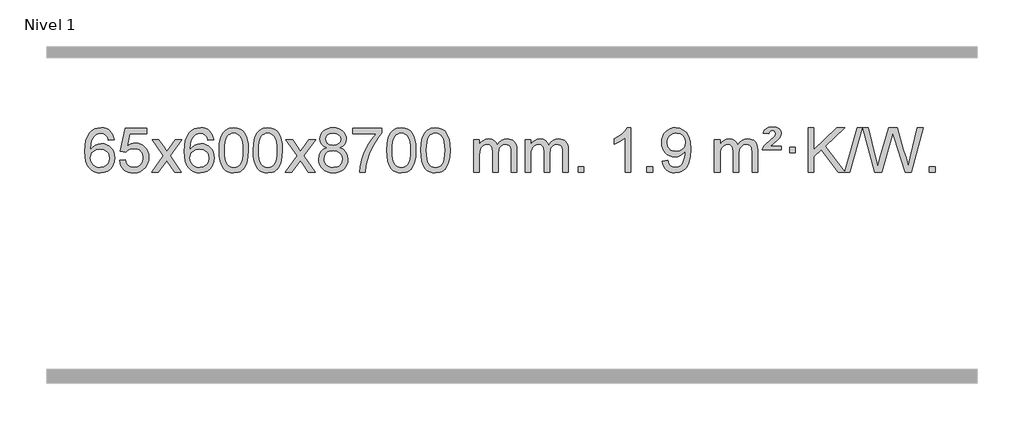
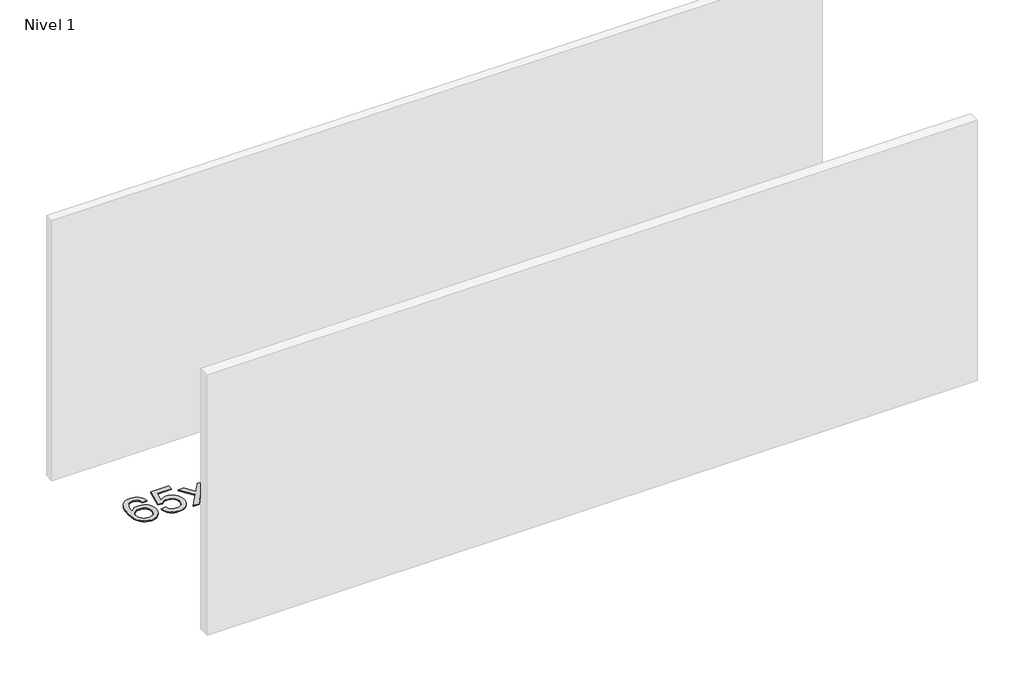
# One storey, part 7 of 10: 1 proxy.
"""IFC4 building model written with IfcOpenShell, lengths in millimetres."""

import ifcopenshell
import ifcopenshell.guid

model = None  # the IFC model being written
_history = None  # IfcOwnerHistory: only IFC2X3 demands one
_inside = {}  # id of a spatial element -> (the spatial element, [elements in it])
_under = {}  # id of a project, library or spatial element -> (it, [spatial elements below it])
_declared = {}  # id of a project -> (the project, [libraries it declares])
_typed = {}  # id of a type object -> (the type object, [elements of that type])
_made_of = {}  # id of a material, layer set ... -> (it, [elements and type objects made of it])


def new_model(schema):
    """Start an empty IFC model of exactly this schema.

    Asked for "IFC4X3", IfcOpenShell would pick the latest addendum, in which some entities
    have other attributes; the version numbers below select the first issue.
    IFC2X3 requires an IfcOwnerHistory on every rooted entity: one is made here for all.
    """
    global model, _history
    if schema == "IFC4X3":
        model = ifcopenshell.file(schema_version=(4, 3, 0, 0))
    else:
        model = ifcopenshell.file(schema=schema)
    _inside.clear()
    _under.clear()
    _declared.clear()
    _typed.clear()
    _made_of.clear()
    _history = None
    if model.schema == "IFC2X3":
        org = make("IfcOrganization", Name="unknown")
        user = make(
            "IfcPersonAndOrganization",
            ThePerson=make("IfcPerson", FamilyName="unknown"),
            TheOrganization=org,
        )
        app = make(
            "IfcApplication",
            ApplicationDeveloper=org,
            Version="unknown",
            ApplicationFullName="unknown",
            ApplicationIdentifier="unknown",
        )
        _history = make(
            "IfcOwnerHistory",
            OwningUser=user,
            OwningApplication=app,
            ChangeAction="ADDED",
            CreationDate=0,
        )
    return model


def make(cls, **values):
    """One entity of the class cls with the attributes given. An attribute that is None is left unset."""
    return model.create_entity(
        cls, **{name: value for name, value in values.items() if value is not None}
    )


def rooted(cls, **values):
    """An entity with a GlobalId (a new one), such as an element, a storey or a relation."""
    return make(cls, GlobalId=ifcopenshell.guid.new(), OwnerHistory=_history, **values)


def si_unit(unit_type, name, prefix=None):
    """IfcSIUnit, for example si_unit("LENGTHUNIT", "METRE", prefix="MILLI")."""
    return make("IfcSIUnit", UnitType=unit_type, Prefix=prefix, Name=name)


def assignment(units):
    """IfcUnitAssignment: the units of a project."""
    return None if units is None else make("IfcUnitAssignment", Units=units)


def point(xyz):
    """IfcCartesianPoint."""
    return None if xyz is None else make("IfcCartesianPoint", Coordinates=xyz)


def direction(xyz):
    """IfcDirection."""
    return None if xyz is None else make("IfcDirection", DirectionRatios=xyz)


def frame(location, z_axis=None, x_axis=None):
    """IfcAxis2Placement3D, a coordinate frame: its origin and axes. An axis left out is left unset."""
    return make(
        "IfcAxis2Placement3D",
        Location=point(location),
        Axis=direction(z_axis),
        RefDirection=direction(x_axis),
    )


def origin():
    """The frame at (0, 0, 0) with its axes left unset."""
    return frame((0.0, 0.0, 0.0))


def origin_with_axes():
    """The frame at (0, 0, 0) with the z axis (0, 0, 1) and the x axis (1, 0, 0) written out."""
    return frame((0.0, 0.0, 0.0), z_axis=(0.0, 0.0, 1.0), x_axis=(1.0, 0.0, 0.0))


def place(relative_to, where):
    """IfcLocalPlacement: puts the frame where relative to a parent placement (None: the world)."""
    return make(
        "IfcLocalPlacement", PlacementRelTo=relative_to, RelativePlacement=where
    )


def context(
    kind, dimensions, precision=None, world=None, true_north=None, identifier=None
):
    """IfcGeometricRepresentationContext, for example the 3D "Model" context."""
    return make(
        "IfcGeometricRepresentationContext",
        ContextIdentifier=identifier,
        ContextType=kind,
        CoordinateSpaceDimension=dimensions,
        Precision=precision,
        WorldCoordinateSystem=world,
        TrueNorth=true_north,
    )


def project(units=None, contexts=None):
    """IfcProject with its units and contexts."""
    return rooted(
        "IfcProject",
        Name="project",
        RepresentationContexts=contexts,
        UnitsInContext=assignment(units),
    )


def spatial(cls, under=None, at=None, **own):
    """A site, building, storey or space (cls), placed at a placement, below another one or the project."""
    s = rooted(cls, ObjectPlacement=at, **own)
    if under is not None:
        _under.setdefault(under.id(), (under, []))[1].append(s)
    return s


def polyline(points):
    """IfcPolyline through the points."""
    return make("IfcPolyline", Points=[point(p) for p in points])


def outline(outer, holes=None, kind="AREA"):
    """IfcArbitraryClosedProfileDef: a profile drawn as a closed curve; with holes, ...WithVoids."""
    if holes is None:
        return make("IfcArbitraryClosedProfileDef", ProfileType=kind, OuterCurve=outer)
    return make(
        "IfcArbitraryProfileDefWithVoids",
        ProfileType=kind,
        OuterCurve=outer,
        InnerCurves=holes,
    )


def extrude(swept, where, along, depth):
    """IfcExtrudedAreaSolid: the profile swept, set in the frame where, extruded along a direction by depth."""
    return make(
        "IfcExtrudedAreaSolid",
        SweptArea=swept,
        Position=where,
        ExtrudedDirection=direction(along),
        Depth=depth,
    )


def shape(context_of_items, identifier, shape_type, items):
    """IfcShapeRepresentation: the items that make up one representation, for example the "Body"."""
    return make(
        "IfcShapeRepresentation",
        ContextOfItems=context_of_items,
        RepresentationIdentifier=identifier,
        RepresentationType=shape_type,
        Items=items,
    )


def made_of(thing, what):
    """Note that an element or type object is made of a material, layer set ...; save() writes the relation."""
    if what is not None:
        _made_of.setdefault(what.id(), (what, []))[1].append(thing)
    return thing


def element(
    cls,
    number,
    at=None,
    inside=None,
    cuts=None,
    type_object=None,
    material=None,
    context=None,
    identifier="Body",
    shape_type=None,
    held_by="IfcProductDefinitionShape",
    body=None,
    shapes=None,
    **own,
):
    """One element of the class cls, such as IfcWall. Its Tag is "e" and its number.

    at: its placement. inside: the storey or other place that contains it. cuts: it is an
    opening in that element (IfcRelVoidsElement). A single representation is given by context,
    identifier, shape_type and body (its items); several are given by shapes. held_by: the class
    of the entity that holds the representations. save() writes the other relations.
    """
    e = rooted(cls, Tag="e%d" % number, ObjectPlacement=at, **own)
    if body is not None:
        shapes = [shape(context, identifier, shape_type, body)]
    if shapes is not None:
        e.Representation = make(held_by, Representations=shapes)
    if inside is not None:
        _inside.setdefault(inside.id(), (inside, []))[1].append(e)
    if cuts is not None:
        rooted(
            "IfcRelVoidsElement", RelatingBuildingElement=cuts, RelatedOpeningElement=e
        )
    if type_object is not None:
        _typed.setdefault(type_object.id(), (type_object, []))[1].append(e)
    return made_of(e, material)


def aggregate(whole, parts):
    """IfcRelAggregates: a whole, such as a stair, and the parts it consists of."""
    return rooted("IfcRelAggregates", RelatingObject=whole, RelatedObjects=parts)


def save(model, path):
    """Write the relations noted so far, then the file.

    IfcRelAggregates (storeys below a building ...), IfcRelContainedInSpatialStructure (elements
    in a storey), IfcRelDefinesByType, IfcRelAssociatesMaterial and IfcRelDeclares: one each for
    every whole, place, type object, material and project.
    """
    for whole, parts in _under.values():
        aggregate(whole, parts)
    for where, things in _inside.values():
        rooted(
            "IfcRelContainedInSpatialStructure",
            RelatedElements=things,
            RelatingStructure=where,
        )
    for kind, things in _typed.values():
        rooted("IfcRelDefinesByType", RelatedObjects=things, RelatingType=kind)
    for what, things in _made_of.values():
        rooted("IfcRelAssociatesMaterial", RelatedObjects=things, RelatingMaterial=what)
    for by, libraries in _declared.values():
        rooted("IfcRelDeclares", RelatingContext=by, RelatedDefinitions=libraries)
    model.write(path)


model = new_model("IFC4")

# Units and contexts
model_context = context("Model", 3, world=origin())
ifc_project = project(units=[si_unit("LENGTHUNIT", "METRE", prefix="MILLI")], contexts=[model_context])

# Site, building, storey
site = spatial("IfcSite", under=ifc_project)
building = spatial("IfcBuilding", under=site)
storey = spatial("IfcBuildingStorey", under=building, Name="Nivel 1", Elevation=0.0)

# Proxy
placement = place(None, origin())
element("IfcBuildingElementProxy", 1, Name="Texto de modelo 1", ObjectType="Texto de modelo 1", at=placement, inside=storey, context=model_context, shape_type="SweptSolid", body=[
    extrude(outline(polyline([(-13868.7310862, 6007.5109581), (-13918.9592412, 6001.2324387), (-13927.0526451, 6026.125787), (-13937.9910031, 6043.1219352), (-13960.7751614, 6058.7937082), (-13988.3172601, 6064.0176325), (-14011.665504, 6060.9764747), (-14033.6403219, 6051.8530012), (-14052.5126682, 6032.6372983), (-14067.9269238, 6006.1865829), (-14078.3379843, 5968.772984), (-14082.2007452, 5916.6686307), (-14062.0530746, 5940.1762902), (-14037.907753, 5956.7432427), (-14011.113681, 5966.565692), (-13983.0197593, 5969.8398418), (-13958.8867005, 5967.601893), (-13936.617577, 5960.8880466), (-13916.212389, 5949.6983025), (-13897.6711365, 5934.0326609), (-13882.2630122, 5914.8230894), (-13871.2572092, 5893.0015557), (-13864.6537274, 5868.5680599), (-13862.4525668, 5841.5226018), (-13866.5973706, 5805.5560055), (-13879.031782, 5772.213634), (-13898.7257315, 5743.9357713), (-13924.6491494, 5723.1627013), (-13955.6248134, 5710.397196), (-13990.4755011, 5706.1420276), (-14020.4180298, 5708.9624563), (-14047.4604222, 5717.4237421), (-14071.6026781, 5731.5258853), (-14092.8447976, 5751.2688857), (-14110.1628426, 5777.4866092), (-14122.5328746, 5811.0129217), (-14129.9548939, 5851.8478232), (-14132.4289003, 5899.9913136), (-14129.6820481, 5953.9657337), (-14121.4414914, 6000.0306908), (-14107.7072302, 6038.1861851), (-14088.4792646, 6068.4322165), (-14067.6387496, 6088.4756538), (-14043.4750339, 6102.7923948), (-14015.9881175, 6111.3824394), (-13985.1780004, 6114.2457876), (-13962.0443542, 6112.4738227), (-13941.1057374, 6107.1579278), (-13922.3621497, 6098.2981031), (-13905.8135913, 6085.8943485), (-13891.9076519, 6070.3635969), (-13881.0919212, 6052.1227814), (-13873.3663993, 6031.1719017), (-13868.7310862, 6007.5109581)]), holes=[polyline([(-14082.2007452, 5842.3074168), (-14079.2944775, 5820.0505561), (-14070.5756742, 5798.7992395), (-14057.0376168, 5780.527767), (-14039.6735866, 5767.2104388), (-14018.7165756, 5759.0802467), (-13994.3995757, 5756.3701827), (-13961.253408, 5761.9865145), (-13947.3382715, 5769.0069292), (-13935.1951, 5778.8355099), (-13925.3450595, 5791.0737176), (-13918.3093164, 5805.3230135), (-13912.6807219, 5839.8548701), (-13918.23574, 5873.0010379), (-13925.1795126, 5886.6218688), (-13934.9007944, 5898.274531), (-13947.0807541, 5907.6095366), (-13961.4005608, 5914.2773978), (-13996.4597149, 5919.6116867), (-14029.5568317, 5914.2773978), (-14057.2338205, 5898.274531), (-14068.1568501, 5886.7751529), (-14075.9590141, 5873.6141746), (-14080.6403124, 5858.7915958), (-14082.2007452, 5842.3074168)])]), origin_with_axes(), (0.0, 0.0, 1.0), 10.0),
    extrude(outline(polyline([(-13818.5029311, 5819.1553765), (-13768.274776, 5825.4338959), (-13759.0532007, 5795.2798351), (-13742.9644948, 5773.6851619), (-13720.0822347, 5760.6989275), (-13690.4799968, 5756.3701827), (-13671.350133, 5757.8754332), (-13654.4766122, 5762.3911847), (-13639.8594342, 5769.9174372), (-13627.4985992, 5780.4541906), (-13617.6700186, 5793.480279), (-13610.6496038, 5808.4745359), (-13605.033272, 5844.3675559), (-13610.2939846, 5878.1636486), (-13616.8698752, 5892.0818507), (-13626.0761222, 5904.0134901), (-13637.9433822, 5913.5845533), (-13652.5023121, 5920.4210271), (-13689.6951819, 5925.8902061), (-13714.0612327, 5923.7074396), (-13733.7919703, 5917.1591401), (-13749.5495825, 5907.1282243), (-13761.9962566, 5894.4976092), (-13812.2244117, 5900.7761285), (-13768.274776, 6107.9672682), (-13573.6406751, 6107.9672682), (-13573.6406751, 6057.7391131), (-13727.6606038, 6057.7391131), (-13749.1449123, 5947.080209), (-13731.4191315, 5959.7844006), (-13713.264155, 5968.8588231), (-13694.6799829, 5974.3034766), (-13675.6666151, 5976.1183612), (-13651.2055281, 5973.8681496), (-13628.7371353, 5967.117515), (-13608.2614365, 5955.8664573), (-13589.778432, 5940.1149766), (-13574.4776066, 5920.8256973), (-13563.5484457, 5898.961244), (-13556.9909491, 5874.5216168), (-13554.805117, 5847.5068156), (-13556.7732856, 5821.4852958), (-13562.6777917, 5797.2786606), (-13572.518635, 5774.8869098), (-13586.2958157, 5754.3100435), (-13607.1669876, 5733.2365366), (-13631.5207757, 5718.1840316), (-13659.35718, 5709.1525286), (-13690.6762005, 5706.1420276), (-13716.5965528, 5708.0764738), (-13740.0091761, 5713.8798123), (-13760.9140704, 5723.552043), (-13779.3112359, 5737.0931662), (-13794.6181926, 5753.8287312), (-13806.2524607, 5773.084288), (-13814.2140402, 5794.8598364), (-13818.5029311, 5819.1553765)])), origin_with_axes(), (0.0, 0.0, 1.0), 10.0),
    extrude(outline(polyline([(-13529.6910394, 5712.420547), (-13422.3675987, 5860.7505675), (-13523.41252, 6007.5109581), (-13462.981771, 6007.5109581), (-13414.2251439, 5936.877615), (-13391.4655111, 5903.5229808), (-13371.7470362, 5930.7952993), (-13316.2213804, 6007.5109581), (-13255.7906313, 6007.5109581), (-13361.9368496, 5860.7505675), (-13259.7147059, 5712.420547), (-13320.145455, 5712.420547), (-13381.6553246, 5801.5951426), (-13392.9370391, 5817.8800523), (-13469.2602903, 5712.420547), (-13529.6910394, 5712.420547)])), origin_with_axes(), (0.0, 0.0, 1.0), 10.0),
    extrude(outline(polyline([(-12970.9028142, 6007.5109581), (-13021.1309693, 6001.2324387), (-13029.2243732, 6026.125787), (-13040.1627312, 6043.1219352), (-13062.9468894, 6058.7937082), (-13090.4889881, 6064.0176325), (-13113.8372321, 6060.9764747), (-13135.8120499, 6051.8530012), (-13154.6843963, 6032.6372983), (-13170.0986519, 6006.1865829), (-13180.5097123, 5968.772984), (-13184.3724733, 5916.6686307), (-13164.2248027, 5940.1762902), (-13140.0794811, 5956.7432427), (-13113.2854091, 5966.565692), (-13085.1914874, 5969.8398418), (-13061.0584285, 5967.601893), (-13038.7893051, 5960.8880466), (-13018.3841171, 5949.6983025), (-12999.8428645, 5934.0326609), (-12984.4347403, 5914.8230894), (-12973.4289372, 5893.0015557), (-12966.8254554, 5868.5680599), (-12964.6242948, 5841.5226018), (-12968.7690986, 5805.5560055), (-12981.2035101, 5772.213634), (-13000.8974596, 5743.9357713), (-13026.8208775, 5723.1627013), (-13057.7965415, 5710.397196), (-13092.6472291, 5706.1420276), (-13122.5897579, 5708.9624563), (-13149.6321502, 5717.4237421), (-13173.7744061, 5731.5258853), (-13195.0165257, 5751.2688857), (-13212.3345706, 5777.4866092), (-13224.7046027, 5811.0129217), (-13232.1266219, 5851.8478232), (-13234.6006284, 5899.9913136), (-13231.8537761, 5953.9657337), (-13223.6132194, 6000.0306908), (-13209.8789583, 6038.1861851), (-13190.6509927, 6068.4322165), (-13169.8104776, 6088.4756538), (-13145.6467619, 6102.7923948), (-13118.1598455, 6111.3824394), (-13087.3497284, 6114.2457876), (-13064.2160823, 6112.4738227), (-13043.2774654, 6107.1579278), (-13024.5338777, 6098.2981031), (-13007.9853193, 6085.8943485), (-12994.0793799, 6070.3635969), (-12983.2636492, 6052.1227814), (-12975.5381274, 6031.1719017), (-12970.9028142, 6007.5109581)]), holes=[polyline([(-13184.3724733, 5842.3074168), (-13181.4662055, 5820.0505561), (-13172.7474022, 5798.7992395), (-13159.2093448, 5780.527767), (-13141.8453146, 5767.2104388), (-13120.8883036, 5759.0802467), (-13096.5713038, 5756.3701827), (-13063.425136, 5761.9865145), (-13049.5099995, 5769.0069292), (-13037.366828, 5778.8355099), (-13027.5167876, 5791.0737176), (-13020.4810444, 5805.3230135), (-13014.8524499, 5839.8548701), (-13020.407468, 5873.0010379), (-13027.3512407, 5886.6218688), (-13037.0725224, 5898.274531), (-13049.2524821, 5907.6095366), (-13063.5722888, 5914.2773978), (-13098.6314429, 5919.6116867), (-13131.7285598, 5914.2773978), (-13159.4055485, 5898.274531), (-13170.3285781, 5886.7751529), (-13178.1307421, 5873.6141746), (-13182.8120405, 5858.7915958), (-13184.3724733, 5842.3074168)])]), origin_with_axes(), (0.0, 0.0, 1.0), 10.0),
    extrude(outline(polyline([(-12920.6746591, 5910.0958057), (-12916.9835765, 5974.4138412), (-12905.9103284, 6025.7088541), (-12887.5652796, 6064.7656593), (-12875.7072166, 6079.9990395), (-12862.0587946, 6092.3690716), (-12846.5740283, 6101.9401349), (-12829.2069324, 6108.7766086), (-12788.8257521, 6114.2457876), (-12757.8746135, 6111.008426), (-12730.1608366, 6101.2963414), (-12706.9842709, 6085.4896783), (-12689.6447662, 6063.9685816), (-12676.5481671, 6036.9169922), (-12666.1003185, 6004.5188512), (-12659.2577134, 5963.3773814), (-12656.976845, 5910.0958057), (-12660.6311395, 5846.1456523), (-12671.5940229, 5794.9732667), (-12689.8287072, 5755.8796734), (-12701.659179, 5740.6003078), (-12715.298404, 5728.1658964), (-12730.8015644, 5718.5304538), (-12748.2238425, 5711.6479948), (-12788.8257521, 5706.1420276), (-12816.4904781, 5708.5332606), (-12841.0159444, 5715.7069595), (-12862.4021511, 5727.6631243), (-12880.6490981, 5744.4017551), (-12898.160281, 5774.6600492), (-12910.6682689, 5812.3618224), (-12918.1730616, 5857.5070745), (-12920.6746591, 5910.0958057)]), holes=[polyline([(-12870.4465041, 5910.1939076), (-12868.9749761, 5866.5293805), (-12864.5603921, 5831.1851178), (-12857.2027522, 5804.1611196), (-12846.9020564, 5785.4573858), (-12834.4431195, 5772.7317344), (-12820.6107564, 5763.6419835), (-12805.4049673, 5758.1881329), (-12788.8257521, 5756.3701827), (-12772.2465368, 5758.1942643), (-12757.0407477, 5763.6665089), (-12743.2083847, 5772.7869167), (-12730.7494478, 5785.5554876), (-12720.4487519, 5804.2898783), (-12713.091112, 5831.3077451), (-12708.676528, 5866.6090882), (-12707.2050001, 5910.1939076), (-12708.6274771, 5952.7026722), (-12712.8949083, 5987.4246011), (-12720.0072935, 6014.3596945), (-12729.9646328, 6033.5079524), (-12742.2151033, 6046.8559375), (-12756.2068818, 6056.3902125), (-12771.9399685, 6062.1107775), (-12789.4143633, 6064.0176325), (-12805.9077394, 6062.3376381), (-12820.8560111, 6057.2976548), (-12834.2591785, 6048.8976825), (-12846.1172414, 6037.1377214), (-12856.7612938, 6016.291075), (-12864.3641884, 5988.1848906), (-12868.9259251, 5952.8191681), (-12870.4465041, 5910.1939076)])]), origin_with_axes(), (0.0, 0.0, 1.0), 10.0),
    extrude(outline(polyline([(-12613.0272093, 5910.0958057), (-12609.3361266, 5974.4138412), (-12598.2628786, 6025.7088541), (-12579.9178297, 6064.7656593), (-12568.0597668, 6079.9990395), (-12554.4113447, 6092.3690716), (-12538.9265784, 6101.9401349), (-12521.5594826, 6108.7766086), (-12481.1783022, 6114.2457876), (-12450.2271637, 6111.008426), (-12422.5133867, 6101.2963414), (-12399.336821, 6085.4896783), (-12381.9973163, 6063.9685816), (-12368.9007173, 6036.9169922), (-12358.4528686, 6004.5188512), (-12351.6102635, 5963.3773814), (-12349.3293952, 5910.0958057), (-12352.9836896, 5846.1456523), (-12363.9465731, 5794.9732667), (-12382.1812573, 5755.8796734), (-12394.0117292, 5740.6003078), (-12407.6509541, 5728.1658964), (-12423.1541145, 5718.5304538), (-12440.5763927, 5711.6479948), (-12481.1783022, 5706.1420276), (-12508.8430283, 5708.5332606), (-12533.3684946, 5715.7069595), (-12554.7547013, 5727.6631243), (-12573.0016482, 5744.4017551), (-12590.5128312, 5774.6600492), (-12603.020819, 5812.3618224), (-12610.5256117, 5857.5070745), (-12613.0272093, 5910.0958057)]), holes=[polyline([(-12562.7990542, 5910.1939076), (-12561.3275262, 5866.5293805), (-12556.9129423, 5831.1851178), (-12549.5553024, 5804.1611196), (-12539.2546065, 5785.4573858), (-12526.7956696, 5772.7317344), (-12512.9633066, 5763.6419835), (-12497.7575175, 5758.1881329), (-12481.1783022, 5756.3701827), (-12464.599087, 5758.1942643), (-12449.3932978, 5763.6665089), (-12435.5609348, 5772.7869167), (-12423.1019979, 5785.5554876), (-12412.8013021, 5804.2898783), (-12405.4436622, 5831.3077451), (-12401.0290782, 5866.6090882), (-12399.5575502, 5910.1939076), (-12400.9800273, 5952.7026722), (-12405.2474584, 5987.4246011), (-12412.3598437, 6014.3596945), (-12422.317183, 6033.5079524), (-12434.5676534, 6046.8559375), (-12448.559432, 6056.3902125), (-12464.2925187, 6062.1107775), (-12481.7669134, 6064.0176325), (-12498.2602895, 6062.3376381), (-12513.2085613, 6057.2976548), (-12526.6117286, 6048.8976825), (-12538.4697916, 6037.1377214), (-12549.113844, 6016.291075), (-12556.7167386, 5988.1848906), (-12561.2784753, 5952.8191681), (-12562.7990542, 5910.1939076)])]), origin_with_axes(), (0.0, 0.0, 1.0), 10.0),
    extrude(outline(polyline([(-12324.2153176, 5712.420547), (-12216.8918769, 5860.7505675), (-12317.9367982, 6007.5109581), (-12257.5060492, 6007.5109581), (-12208.7494221, 5936.877615), (-12185.9897893, 5903.5229808), (-12166.2713144, 5930.7952993), (-12110.7456586, 6007.5109581), (-12050.3149095, 6007.5109581), (-12156.4611278, 5860.7505675), (-12054.2389841, 5712.420547), (-12114.6697332, 5712.420547), (-12176.1796028, 5801.5951426), (-12187.4613173, 5817.8800523), (-12263.7845685, 5712.420547), (-12324.2153176, 5712.420547)])), origin_with_axes(), (0.0, 0.0, 1.0), 10.0),
    extrude(outline(polyline([(-11949.6623956, 5933.7383553), (-11976.5545694, 5946.9821071), (-11995.4269158, 5964.9347485), (-12006.5737403, 5987.2283974), (-12010.2893484, 6013.4951719), (-12008.2659974, 6033.9800676), (-12002.1959445, 6052.7604435), (-11992.0791896, 6069.8362994), (-11977.9157328, 6085.2076355), (-11960.3861558, 6097.911827), (-11940.1710401, 6106.9862496), (-11917.2703859, 6112.4309031), (-11891.6841932, 6114.2457876), (-11865.9753731, 6112.3879835), (-11842.9030406, 6106.8145713), (-11822.4671958, 6097.5255509), (-11804.6678386, 6084.5209224), (-11790.2468644, 6068.8491494), (-11779.9461685, 6051.5586956), (-11773.765751, 6032.6495611), (-11771.7056118, 6012.1217457), (-11775.372169, 5986.7010999), (-11786.3718407, 5964.7875957), (-11804.8272541, 5946.9453189), (-11830.8610366, 5933.7383553), (-11799.9466863, 5917.8090649), (-11777.4445709, 5894.3504564), (-11763.7225725, 5864.4907011), (-11759.148573, 5829.3579705), (-11761.4171787, 5804.3052067), (-11768.2229956, 5781.3371074), (-11779.5660238, 5760.4536728), (-11795.4462632, 5741.6549029), (-11815.0298481, 5726.11802), (-11837.4829125, 5715.0202464), (-11862.8054565, 5708.3615823), (-11890.9974801, 5706.1420276), (-11919.1895037, 5708.3707794), (-11944.5120477, 5715.0570346), (-11966.9651121, 5726.2007934), (-11986.548697, 5741.8020557), (-12002.4289364, 5760.73265), (-12013.7719646, 5781.864405), (-12020.5777815, 5805.1973205), (-12022.8463872, 5830.7313967), (-12018.0884467, 5867.2252906), (-12003.8146253, 5897.2444614), (-11980.7606869, 5919.7588395), (-11949.6623956, 5933.7383553)]), holes=[polyline([(-11960.0611933, 6012.0236439), (-11955.6098212, 5990.097877), (-11942.2557048, 5972.586694), (-11920.3912515, 5961.1087757), (-11890.4088689, 5957.282803), (-11861.1254621, 5961.0842503), (-11839.5921026, 5972.4885921), (-11826.3483508, 5989.4111639), (-11821.9337669, 6009.767301), (-11826.4955036, 6030.8959902), (-11840.1807138, 6048.370385), (-11862.0083789, 6060.1058206), (-11890.9974801, 6064.0176325), (-11920.1705223, 6060.1916598), (-11941.9613992, 6048.7137415), (-11955.5362448, 6031.8892716), (-11960.0611933, 6012.0236439)]), polyline([(-11972.6182321, 5832.4972302), (-11970.5213047, 5813.2815274), (-11964.2305226, 5794.6789611), (-11952.6177143, 5778.4553651), (-11934.5547083, 5766.376573), (-11912.923247, 5758.8717803), (-11890.6050726, 5756.3701827), (-11856.4165726, 5761.6308952), (-11842.5228959, 5768.2067859), (-11830.7629348, 5777.4130328), (-11814.7232798, 5801.3130998), (-11809.3767281, 5830.9276004), (-11814.894958, 5861.0448731), (-11831.4496478, 5885.4722375), (-11843.52844, 5894.9145421), (-11857.6918968, 5901.6590453), (-11892.2728044, 5907.0546479), (-11925.9830578, 5901.7326217), (-11939.7203847, 5895.080089), (-11951.3791782, 5885.7665431), (-11967.3084686, 5861.8051625), (-11972.6182321, 5832.4972302)])]), origin_with_axes(), (0.0, 0.0, 1.0), 10.0),
    extrude(outline(polyline([(-11715.1989373, 6057.7391131), (-11715.1989373, 6107.9672682), (-11451.5011232, 6107.9672682), (-11451.5011232, 6067.353096), (-11489.0864004, 6019.785954), (-11526.3037956, 5959.2938912), (-11559.1311323, 5891.3951377), (-11583.546234, 5821.6079232), (-11595.5146616, 5769.3932053), (-11602.1855884, 5712.420547), (-11652.4137435, 5712.420547), (-11646.9813527, 5764.1938065), (-11632.4500139, 5825.7282015), (-11609.2121345, 5890.9536793), (-11577.6601221, 5953.8001868), (-11540.8228716, 6010.6134296), (-11501.7292783, 6057.7391131), (-11715.1989373, 6057.7391131)])), origin_with_axes(), (0.0, 0.0, 1.0), 10.0),
    extrude(outline(polyline([(-11407.5514875, 5910.0958057), (-11403.8604048, 5974.4138412), (-11392.7871568, 6025.7088541), (-11374.4421079, 6064.7656593), (-11362.584045, 6079.9990395), (-11348.9356229, 6092.3690716), (-11333.4508566, 6101.9401349), (-11316.0837608, 6108.7766086), (-11275.7025804, 6114.2457876), (-11244.7514419, 6111.008426), (-11217.0376649, 6101.2963414), (-11193.8610992, 6085.4896783), (-11176.5215945, 6063.9685816), (-11163.4249955, 6036.9169922), (-11152.9771468, 6004.5188512), (-11146.1345417, 5963.3773814), (-11143.8536734, 5910.0958057), (-11147.5079679, 5846.1456523), (-11158.4708513, 5794.9732667), (-11176.7055355, 5755.8796734), (-11188.5360074, 5740.6003078), (-11202.1752323, 5728.1658964), (-11217.6783927, 5718.5304538), (-11235.1006709, 5711.6479948), (-11275.7025804, 5706.1420276), (-11303.3673065, 5708.5332606), (-11327.8927728, 5715.7069595), (-11349.2789795, 5727.6631243), (-11367.5259264, 5744.4017551), (-11385.0371094, 5774.6600492), (-11397.5450972, 5812.3618224), (-11405.0498899, 5857.5070745), (-11407.5514875, 5910.0958057)]), holes=[polyline([(-11357.3233324, 5910.1939076), (-11355.8518045, 5866.5293805), (-11351.4372205, 5831.1851178), (-11344.0795806, 5804.1611196), (-11333.7788847, 5785.4573858), (-11321.3199478, 5772.7317344), (-11307.4875848, 5763.6419835), (-11292.2817957, 5758.1881329), (-11275.7025804, 5756.3701827), (-11259.1233652, 5758.1942643), (-11243.9175761, 5763.6665089), (-11230.085213, 5772.7869167), (-11217.6262761, 5785.5554876), (-11207.3255803, 5804.2898783), (-11199.9679404, 5831.3077451), (-11195.5533564, 5866.6090882), (-11194.0818284, 5910.1939076), (-11195.5043055, 5952.7026722), (-11199.7717366, 5987.4246011), (-11206.8841219, 6014.3596945), (-11216.8414612, 6033.5079524), (-11229.0919316, 6046.8559375), (-11243.0837102, 6056.3902125), (-11258.8167969, 6062.1107775), (-11276.2911916, 6064.0176325), (-11292.7845677, 6062.3376381), (-11307.7328395, 6057.2976548), (-11321.1360068, 6048.8976825), (-11332.9940698, 6037.1377214), (-11343.6381222, 6016.291075), (-11351.2410168, 5988.1848906), (-11355.8027535, 5952.8191681), (-11357.3233324, 5910.1939076)])]), origin_with_axes(), (0.0, 0.0, 1.0), 10.0),
    extrude(outline(polyline([(-11099.9040377, 5910.0958057), (-11096.212955, 5974.4138412), (-11085.1397069, 6025.7088541), (-11066.7946581, 6064.7656593), (-11054.9365951, 6079.9990395), (-11041.2881731, 6092.3690716), (-11025.8034068, 6101.9401349), (-11008.4363109, 6108.7766086), (-10968.0551306, 6114.2457876), (-10937.1039921, 6111.008426), (-10909.3902151, 6101.2963414), (-10886.2136494, 6085.4896783), (-10868.8741447, 6063.9685816), (-10855.7775457, 6036.9169922), (-10845.329697, 6004.5188512), (-10838.4870919, 5963.3773814), (-10836.2062235, 5910.0958057), (-10839.860518, 5846.1456523), (-10850.8234015, 5794.9732667), (-10869.0580857, 5755.8796734), (-10880.8885575, 5740.6003078), (-10894.5277825, 5728.1658964), (-10910.0309429, 5718.5304538), (-10927.4532211, 5711.6479948), (-10968.0551306, 5706.1420276), (-10995.7198566, 5708.5332606), (-11020.245323, 5715.7069595), (-11041.6315296, 5727.6631243), (-11059.8784766, 5744.4017551), (-11077.3896596, 5774.6600492), (-11089.8976474, 5812.3618224), (-11097.4024401, 5857.5070745), (-11099.9040377, 5910.0958057)]), holes=[polyline([(-11049.6758826, 5910.1939076), (-11048.2043546, 5866.5293805), (-11043.7897707, 5831.1851178), (-11036.4321308, 5804.1611196), (-11026.1314349, 5785.4573858), (-11013.672498, 5772.7317344), (-10999.840135, 5763.6419835), (-10984.6343459, 5758.1881329), (-10968.0551306, 5756.3701827), (-10951.4759154, 5758.1942643), (-10936.2701262, 5763.6665089), (-10922.4377632, 5772.7869167), (-10909.9788263, 5785.5554876), (-10899.6781304, 5804.2898783), (-10892.3204905, 5831.3077451), (-10887.9059066, 5866.6090882), (-10886.4343786, 5910.1939076), (-10887.8568557, 5952.7026722), (-10892.1242868, 5987.4246011), (-10899.236672, 6014.3596945), (-10909.1940114, 6033.5079524), (-10921.4444818, 6046.8559375), (-10935.4362604, 6056.3902125), (-10951.169347, 6062.1107775), (-10968.6437418, 6064.0176325), (-10985.1371179, 6062.3376381), (-11000.0853897, 6057.2976548), (-11013.488557, 6048.8976825), (-11025.34662, 6037.1377214), (-11035.9906724, 6016.291075), (-11043.5935669, 5988.1848906), (-11048.1553037, 5952.8191681), (-11049.6758826, 5910.1939076)])]), origin_with_axes(), (0.0, 0.0, 1.0), 10.0),
    extrude(outline(polyline([(-10622.7365645, 5712.420547), (-10622.7365645, 6007.5109581), (-10572.5084094, 6007.5109581), (-10572.5084094, 5958.9505347), (-10557.4007221, 5981.2564463), (-10537.9765528, 5998.7308411), (-10514.8980889, 6010.0248184), (-10488.8275182, 6013.7894775), (-10460.8930121, 6009.951242), (-10438.5012613, 5998.4365355), (-10421.7748932, 5980.0056476), (-10410.8365352, 5955.4188676), (-10392.5282746, 5980.9560094), (-10371.64484, 5999.196825), (-10348.1862315, 6010.1413143), (-10322.1524489, 6013.7894775), (-10302.0446322, 6012.2719642), (-10284.3954935, 6007.7194245), (-10269.2050328, 6000.1318584), (-10256.4732501, 5989.5092658), (-10246.4086118, 5975.7290194), (-10239.2195845, 5958.6684918), (-10234.9061681, 5938.3276832), (-10233.4683626, 5914.7065934), (-10233.4683626, 5712.420547), (-10283.6965177, 5712.420547), (-10283.6965177, 5893.124183), (-10284.8614774, 5918.1769469), (-10288.3563563, 5935.0627305), (-10294.9046558, 5946.6264879), (-10305.2298772, 5955.7131732), (-10318.5104172, 5961.5992851), (-10333.9246728, 5963.5613224), (-10361.1356777, 5958.5336018), (-10383.318962, 5943.45044), (-10391.924335, 5931.8805512), (-10398.07103, 5917.2817674), (-10402.988386, 5878.9975144), (-10402.988386, 5712.420547), (-10453.2165411, 5712.420547), (-10453.2165411, 5898.7159894), (-10456.1228088, 5927.1164794), (-10464.8416121, 5947.3745146), (-10480.1822913, 5959.5146204), (-10502.9541868, 5963.5613224), (-10522.3047798, 5960.8635211), (-10540.1347938, 5952.7701172), (-10554.8500736, 5939.4773144), (-10564.8564639, 5921.1813165), (-10570.595423, 5895.7974589), (-10572.5084094, 5861.2410768), (-10572.5084094, 5712.420547), (-10622.7365645, 5712.420547)])), origin_with_axes(), (0.0, 0.0, 1.0), 10.0),
    extrude(outline(polyline([(-10158.12613, 5712.420547), (-10158.12613, 6007.5109581), (-10107.8979749, 6007.5109581), (-10107.8979749, 5958.9505347), (-10092.7902877, 5981.2564463), (-10073.3661183, 5998.7308411), (-10050.2876545, 6010.0248184), (-10024.2170838, 6013.7894775), (-9996.2825776, 6009.951242), (-9973.8908268, 5998.4365355), (-9957.1644588, 5980.0056476), (-9946.2261008, 5955.4188676), (-9927.9178402, 5980.9560094), (-9907.0344056, 5999.196825), (-9883.575797, 6010.1413143), (-9857.5420145, 6013.7894775), (-9837.4341978, 6012.2719642), (-9819.7850591, 6007.7194245), (-9804.5945983, 6000.1318584), (-9791.8628156, 5989.5092658), (-9781.7981774, 5975.7290194), (-9774.6091501, 5958.6684918), (-9770.2957337, 5938.3276832), (-9768.8579282, 5914.7065934), (-9768.8579282, 5712.420547), (-9819.0860833, 5712.420547), (-9819.0860833, 5893.124183), (-9820.2510429, 5918.1769469), (-9823.7459219, 5935.0627305), (-9830.2942214, 5946.6264879), (-9840.6194427, 5955.7131732), (-9853.8999827, 5961.5992851), (-9869.3142383, 5963.5613224), (-9896.5252433, 5958.5336018), (-9918.7085276, 5943.45044), (-9927.3139006, 5931.8805512), (-9933.4605956, 5917.2817674), (-9938.3779516, 5878.9975144), (-9938.3779516, 5712.420547), (-9988.6061066, 5712.420547), (-9988.6061066, 5898.7159894), (-9991.5123744, 5927.1164794), (-10000.2311777, 5947.3745146), (-10015.5718569, 5959.5146204), (-10038.3437524, 5963.5613224), (-10057.6943453, 5960.8635211), (-10075.5243594, 5952.7701172), (-10090.2396392, 5939.4773144), (-10100.2460294, 5921.1813165), (-10105.9849886, 5895.7974589), (-10107.8979749, 5861.2410768), (-10107.8979749, 5712.420547), (-10158.12613, 5712.420547)])), origin_with_axes(), (0.0, 0.0, 1.0), 10.0),
    extrude(outline(polyline([(-9680.9586568, 5712.420547), (-9680.9586568, 5762.6487021), (-9630.7305017, 5762.6487021), (-9630.7305017, 5712.420547), (-9680.9586568, 5712.420547)])), origin_with_axes(), (0.0, 0.0, 1.0), 10.0),
    extrude(outline(polyline([(-9203.7911836, 5712.420547), (-9254.0193387, 5712.420547), (-9254.0193387, 6025.5617013), (-9274.9886124, 6008.6023413), (-9301.5987434, 5991.6675068), (-9354.4756488, 5966.3081746), (-9354.4756488, 6013.7894775), (-9315.0264362, 6035.2492605), (-9280.8501989, 6060.780271), (-9253.9089741, 6087.9299622), (-9236.1647992, 6114.2457876), (-9203.7911836, 6114.2457876), (-9203.7911836, 5712.420547)])), origin_with_axes(), (0.0, 0.0, 1.0), 10.0),
    extrude(outline(polyline([(-9059.3852378, 5712.420547), (-9059.3852378, 5762.6487021), (-9009.1570827, 5762.6487021), (-9009.1570827, 5712.420547), (-9059.3852378, 5712.420547)])), origin_with_axes(), (0.0, 0.0, 1.0), 10.0),
    extrude(outline(polyline([(-8921.2578113, 5812.8768572), (-8871.0296562, 5819.1553765), (-8862.445743, 5790.6445219), (-8848.4662272, 5771.2326153), (-8829.4344653, 5760.0857908), (-8805.6938139, 5756.3701827), (-8784.3934464, 5758.7614157), (-8765.0305907, 5765.9351146), (-8748.9418848, 5777.1064645), (-8737.4639665, 5791.4906505), (-8721.0319041, 5835.1459806), (-8715.5872505, 5863.5464706), (-8713.772366, 5893.4184886), (-8714.0666716, 5903.2286752), (-8731.46749, 5881.9896213), (-8754.2393855, 5865.1651514), (-8780.7391519, 5854.2022679), (-8809.3235829, 5850.5479735), (-8833.183796, 5852.7797909), (-8855.1248913, 5859.4752432), (-8875.1468689, 5870.6343304), (-8893.2497287, 5886.2570525), (-8908.2501171, 5905.5279376), (-8918.9646802, 5927.6315142), (-8925.3934181, 5952.5677821), (-8927.5363307, 5980.3367414), (-8925.2891848, 6009.031537), (-8918.5477473, 6034.7832766), (-8907.312018, 6057.5919603), (-8891.581997, 6077.4575881), (-8872.4674617, 6093.5524254), (-8851.0781894, 6105.0487377), (-8827.41418, 6111.9465251), (-8801.4754337, 6114.2457876), (-8764.0127838, 6108.9973378), (-8729.9101229, 6093.2519884), (-8701.3870055, 6067.7945543), (-8680.6629865, 6033.4098505), (-8668.044634, 5985.8794968), (-8663.8385165, 5920.9851128), (-8668.0323713, 5852.178917), (-8680.6139355, 5798.9954432), (-8701.4728447, 5759.0311958), (-8714.9649168, 5743.1049711), (-8730.4987341, 5729.882679), (-8747.7615967, 5719.496144), (-8766.440805, 5712.0771905), (-8808.0482587, 5706.1420276), (-8830.6055563, 5707.8925328), (-8850.9923502, 5713.1440483), (-8869.2086404, 5721.8965741), (-8885.2544267, 5734.1501102), (-8898.7250391, 5749.5735628), (-8909.2158073, 5767.8358382), (-8916.7267314, 5788.9369363), (-8921.2578113, 5812.8768572)]), holes=[polyline([(-8714.0666716, 5981.5139637), (-8719.4867997, 6015.555311), (-8726.2619598, 6029.6329287), (-8735.7471839, 6041.7485091), (-8747.4764882, 6051.4912506), (-8760.9838887, 6058.4503517), (-8793.3329788, 6064.0176325), (-8810.9422637, 6062.5185134), (-8826.8838168, 6058.021156), (-8841.1576382, 6050.5255604), (-8853.7637279, 6040.0317264), (-8864.0644238, 6027.1527909), (-8871.4220637, 6012.5018905), (-8875.8366476, 5996.0790251), (-8877.3081756, 5977.8841947), (-8871.7408948, 5946.8472171), (-8864.7817937, 5933.7291583), (-8855.0390522, 5922.2113861), (-8842.9173404, 5912.8334609), (-8828.8213287, 5906.1349429), (-8794.706405, 5900.7761285), (-8762.6148323, 5906.1349429), (-8736.7772535, 5922.2113861), (-8726.8413739, 5933.9560188), (-8719.7443171, 5947.7546593), (-8714.0666716, 5981.5139637)])]), origin_with_axes(), (0.0, 0.0, 1.0), 10.0),
    extrude(outline(polyline([(-8450.3688575, 5712.420547), (-8450.3688575, 6007.5109581), (-8400.1407024, 6007.5109581), (-8400.1407024, 5958.9505347), (-8385.0330151, 5981.2564463), (-8365.6088458, 5998.7308411), (-8342.530382, 6010.0248184), (-8316.4598112, 6013.7894775), (-8288.5253051, 6009.951242), (-8266.1335543, 5998.4365355), (-8249.4071862, 5980.0056476), (-8238.4688283, 5955.4188676), (-8220.1605676, 5980.9560094), (-8199.277133, 5999.196825), (-8175.8185245, 6010.1413143), (-8149.784742, 6013.7894775), (-8129.6769252, 6012.2719642), (-8112.0277865, 6007.7194245), (-8096.8373258, 6000.1318584), (-8084.1055431, 5989.5092658), (-8074.0409048, 5975.7290194), (-8066.8518775, 5958.6684918), (-8062.5384611, 5938.3276832), (-8061.1006556, 5914.7065934), (-8061.1006556, 5712.420547), (-8111.3288107, 5712.420547), (-8111.3288107, 5893.124183), (-8112.4937704, 5918.1769469), (-8115.9886493, 5935.0627305), (-8122.5369488, 5946.6264879), (-8132.8621702, 5955.7131732), (-8146.1427102, 5961.5992851), (-8161.5569658, 5963.5613224), (-8188.7679707, 5958.5336018), (-8210.951255, 5943.45044), (-8219.556628, 5931.8805512), (-8225.703323, 5917.2817674), (-8230.620679, 5878.9975144), (-8230.620679, 5712.420547), (-8280.8488341, 5712.420547), (-8280.8488341, 5898.7159894), (-8283.7551019, 5927.1164794), (-8292.4739051, 5947.3745146), (-8307.8145843, 5959.5146204), (-8330.5864798, 5963.5613224), (-8349.9370728, 5960.8635211), (-8367.7670868, 5952.7701172), (-8382.4823666, 5939.4773144), (-8392.4887569, 5921.1813165), (-8398.227716, 5895.7974589), (-8400.1407024, 5861.2410768), (-8400.1407024, 5712.420547), (-8450.3688575, 5712.420547)])), origin_with_axes(), (0.0, 0.0, 1.0), 10.0),
    extrude(outline(polyline([(-8017.15102, 5913.3331673), (-8013.3250472, 5929.1520931), (-8004.9863887, 5945.0200698), (-7983.4775547, 5970.1586728), (-7951.520872, 5997.8969753), (-7907.3750326, 6035.273786), (-7900.2381219, 6046.8007552), (-7897.8591517, 6058.6220299), (-7899.7476126, 6070.7130848), (-7905.4129953, 6080.4987459), (-7914.7817234, 6086.973469), (-7927.7802206, 6089.1317101), (-7940.214632, 6087.5130293), (-7949.0683254, 6082.656987), (-7955.4939976, 6073.1901569), (-7960.6443455, 6057.7391131), (-8010.8725006, 6064.0176325), (-8000.0322444, 6089.2298119), (-7983.4039783, 6106.7900458), (-7959.6388014, 6117.0907417), (-7927.3878131, 6120.524307), (-7891.6051577, 6116.3917659), (-7866.8589622, 6103.9941427), (-7852.437988, 6085.6613566), (-7847.6309966, 6063.7233269), (-7851.7267495, 6040.8165414), (-7864.0140081, 6019.1850801), (-7884.5418234, 5999.3685032), (-7921.0111919, 5971.3113697), (-7946.6157787, 5944.7257642), (-7847.6309966, 5944.7257642), (-7847.6309966, 5913.3331673), (-8017.15102, 5913.3331673)])), origin_with_axes(), (0.0, 0.0, 1.0), 10.0),
    extrude(outline(polyline([(-7772.288764, 5888.2190898), (-7772.288764, 5938.4472448), (-7722.0606089, 5938.4472448), (-7722.0606089, 5888.2190898), (-7772.288764, 5888.2190898)])), origin_with_axes(), (0.0, 0.0, 1.0), 10.0),
    extrude(outline(polyline([(-7331.4189809, 5712.420547), (-7484.8502984, 5915.0990009), (-7552.5405855, 5850.5479735), (-7552.5405855, 5712.420547), (-7602.7687406, 5712.420547), (-7602.7687406, 6114.2457876), (-7552.5405855, 6114.2457876), (-7552.5405855, 5917.5515475), (-7346.5266682, 6114.2457876), (-7276.2857326, 6114.2457876), (-7449.2393213, 5949.0422463), (-7274.5857114, 5718.4650668), (-7163.2723837, 6114.2457876), (-7117.9493219, 6114.2457876), (-7230.9626708, 5712.420547), (-7270.0072132, 5712.420547), (-7276.2857326, 5712.420547), (-7331.4189809, 5712.420547)])), origin_with_axes(), (0.0, 0.0, 1.0), 10.0),
    extrude(outline(polyline([(-7003.464445, 5712.420547), (-7113.0442286, 6114.2457876), (-7061.2464437, 6114.2457876), (-6997.6764349, 5850.155566), (-6978.0560618, 5768.6329159), (-6957.0622627, 5840.7377869), (-6877.403548, 6114.2457876), (-6802.7480284, 6114.2457876), (-6744.8679278, 5915.9819177), (-6720.0726814, 5842.4055186), (-6701.8012089, 5768.6329159), (-6682.7694471, 5847.8011212), (-6618.6108271, 6114.2457876), (-6566.8130422, 6114.2457876), (-6676.4909277, 5712.420547), (-6730.152648, 5712.420547), (-6826.4886798, 6022.4224416), (-6839.9286354, 6065.6853642), (-6855.0363227, 6013.5932737), (-6942.8374922, 5712.420547), (-7003.464445, 5712.420547)])), origin_with_axes(), (0.0, 0.0, 1.0), 10.0),
    extrude(outline(polyline([(-6510.3063677, 5712.420547), (-6510.3063677, 5762.6487021), (-6460.0782126, 5762.6487021), (-6460.0782126, 5712.420547), (-6510.3063677, 5712.420547)])), origin_with_axes(), (0.0, 0.0, 1.0), 10.0),
])

save(model, "model.ifc")
